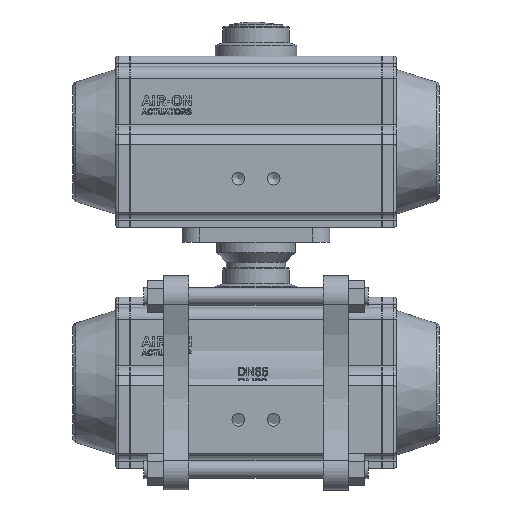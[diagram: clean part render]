
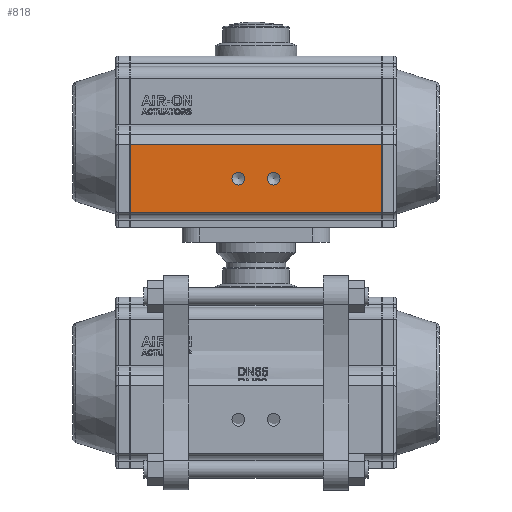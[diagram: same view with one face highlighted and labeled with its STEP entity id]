
A CAD part, front view. The second image highlights one B-rep face of the part: STEP entity #818.
In plain terms, the highlighted planar face has unit normal (0, -1, 0).
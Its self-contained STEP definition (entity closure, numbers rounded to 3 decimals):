
#818 = ADVANCED_FACE( '', ( #2149, #2150, #2151 ), #2152, .T. );
#2149 = FACE_BOUND( '', #4515, .T. );
#2150 = FACE_BOUND( '', #4516, .T. );
#2151 = FACE_OUTER_BOUND( '', #4517, .T. );
#2152 = PLANE( '', #4518 );
#4515 = EDGE_LOOP( '', ( #9703 ) );
#4516 = EDGE_LOOP( '', ( #9704 ) );
#4517 = EDGE_LOOP( '', ( #9705, #9706, #9707, #9708 ) );
#4518 = AXIS2_PLACEMENT_3D( '', #9709, #9710, #9711 );
#9703 = ORIENTED_EDGE( '', *, *, #14858, .T. );
#9704 = ORIENTED_EDGE( '', *, *, #14859, .T. );
#9705 = ORIENTED_EDGE( '', *, *, #14860, .F. );
#9706 = ORIENTED_EDGE( '', *, *, #14861, .F. );
#9707 = ORIENTED_EDGE( '', *, *, #14862, .T. );
#9708 = ORIENTED_EDGE( '', *, *, #14863, .T. );
#9709 = CARTESIAN_POINT( '', ( 85., -58.5, -48. ) );
#9710 = DIRECTION( '', ( 0., -1., 0. ) );
#9711 = DIRECTION( '', ( 0., 0., -1. ) );
#14858 = EDGE_CURVE( '', #17175, #17175, #17176, .T. );
#14859 = EDGE_CURVE( '', #17177, #17177, #17178, .T. );
#14860 = EDGE_CURVE( '', #17179, #17180, #17181, .T. );
#14861 = EDGE_CURVE( '', #17182, #17179, #17183, .T. );
#14862 = EDGE_CURVE( '', #17182, #17184, #17185, .T. );
#14863 = EDGE_CURVE( '', #17184, #17180, #17186, .T. );
#17175 = VERTEX_POINT( '', #20962 );
#17176 = CIRCLE( '', #20963, 4.283 );
#17177 = VERTEX_POINT( '', #20964 );
#17178 = CIRCLE( '', #20965, 4.283 );
#17179 = VERTEX_POINT( '', #20966 );
#17180 = VERTEX_POINT( '', #20967 );
#17181 = LINE( '', #20968, #20969 );
#17182 = VERTEX_POINT( '', #20970 );
#17183 = LINE( '', #20971, #20972 );
#17184 = VERTEX_POINT( '', #20973 );
#17185 = LINE( '', #20974, #20975 );
#17186 = LINE( '', #20976, #20977 );
#20962 = CARTESIAN_POINT( '', ( -12., -58.5, -29.283 ) );
#20963 = AXIS2_PLACEMENT_3D( '', #27693, #27694, #27695 );
#20964 = CARTESIAN_POINT( '', ( 12., -58.5, -29.283 ) );
#20965 = AXIS2_PLACEMENT_3D( '', #27696, #27697, #27698 );
#20966 = CARTESIAN_POINT( '', ( -85., -58.5, -48. ) );
#20967 = CARTESIAN_POINT( '', ( -85., -58.5, -2. ) );
#20968 = CARTESIAN_POINT( '', ( -85., -58.5, -48. ) );
#20969 = VECTOR( '', #27699, 1000. );
#20970 = CARTESIAN_POINT( '', ( 85., -58.5, -48. ) );
#20971 = CARTESIAN_POINT( '', ( 85., -58.5, -48. ) );
#20972 = VECTOR( '', #27700, 1000. );
#20973 = CARTESIAN_POINT( '', ( 85., -58.5, -2. ) );
#20974 = CARTESIAN_POINT( '', ( 85., -58.5, -48. ) );
#20975 = VECTOR( '', #27701, 1000. );
#20976 = CARTESIAN_POINT( '', ( 85., -58.5, -2. ) );
#20977 = VECTOR( '', #27702, 1000. );
#27693 = CARTESIAN_POINT( '', ( -12., -58.5, -25. ) );
#27694 = DIRECTION( '', ( 0., 1., 0. ) );
#27695 = DIRECTION( '', ( 0., 0., -1. ) );
#27696 = CARTESIAN_POINT( '', ( 12., -58.5, -25. ) );
#27697 = DIRECTION( '', ( 0., 1., 0. ) );
#27698 = DIRECTION( '', ( 0., 0., -1. ) );
#27699 = DIRECTION( '', ( 0., 0., 1. ) );
#27700 = DIRECTION( '', ( -1., 0., 0. ) );
#27701 = DIRECTION( '', ( 0., 0., 1. ) );
#27702 = DIRECTION( '', ( -1., 0., 0. ) );
